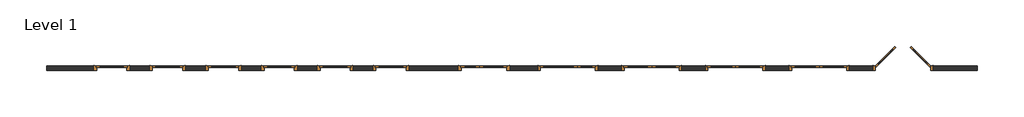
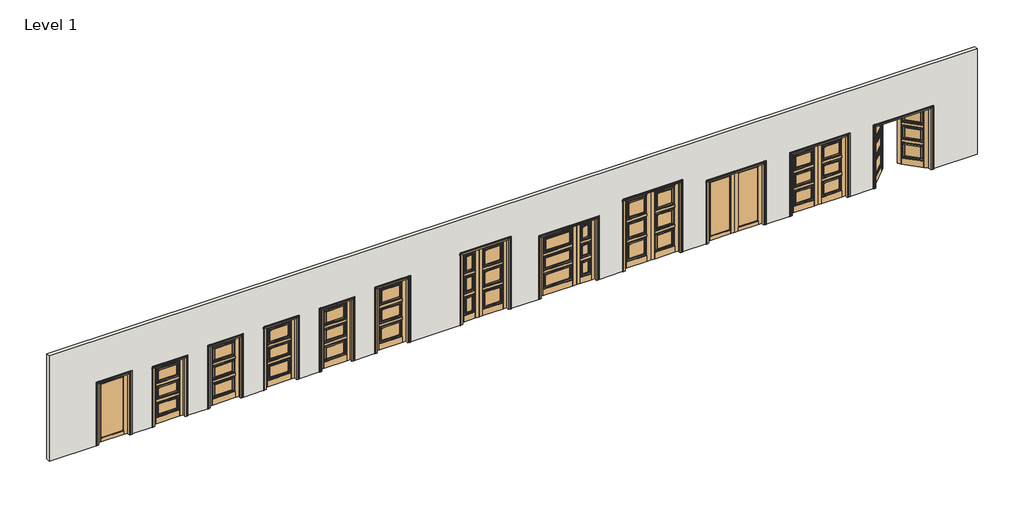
# One storey: 30 doors, 1 wall.
"""IFC4 building model written with IfcOpenShell, lengths in millimetres."""

from ifc_helpers import new_model, si_unit, frame, origin, place, context, project, spatial, polyline, outline, extrude, transform, mapped, element, save
from components import fl100_fl100_ab5ff895, fl100_fl100_03ccafaa, fl100_fl100_24e7efae, frame_100_frame_100_33f8a8ae, frame_100_frame_100_04226f92, frame_100_frame_100_811dc82e, frame_100_frame_100_92fc3688, frame_100_frame_100_0b87e9ed, frame_100_frame_100_8937c7fa, ts3000_ts3000_933aa4a2, ts3000_ts3000_b3d2ea40, ts3000_ts3000_06066854, ts3000_ts3000_854737be, ts3000_ts3000_38d59591, ts3000_ts3000_fbc00aaa, ts3000_ts3000_dfe12d88, ts3000_ts3000_1b48b864, ts3000_ts3000_a0dd6230, ts3000_ts3000_8495b2d9, ts3000_ts3000_f5337b0c, ts3000_ts3000_832c720e, ts3000_ts3000_b2f78607, ts3000_ts3000_fb004bbc, ts3000_ts3000_b3cfcfa0, ts3000_ts3000_a5b986c2, ts3000_ts3000_820fce27, ts3000_ts3000_e38f3df4, ts3000_ts3000_722c0499, ts3000_ts3000_e69fdbf4

model = new_model("IFC4")

# Units and contexts
model_context = context("Model", 3, world=origin())
ifc_project = project(units=[si_unit("LENGTHUNIT", "METRE", prefix="MILLI")], contexts=[model_context])

# Site, building, storey
site = spatial("IfcSite", under=ifc_project)
building = spatial("IfcBuilding", under=site)
storey = spatial("IfcBuildingStorey", under=building, Name="Level 1", Elevation=0.0)

# Doors
placement = place(None, origin())
fl100_fl100_shape = fl100_fl100_ab5ff895(model_context)
element("IfcDoor", 1, ObjectType="FL100 : FL100", at=placement, inside=storey, context=model_context, shape_type="MappedRepresentation", body=[
    mapped(fl100_fl100_shape, transform((-15488.6192752, 1797.466931, 0.0), x_axis=(1.0, 0.0, 0.0), y_axis=(0.0, 1.0, 0.0), z_axis=(0.0, 0.0, 1.0))),
])
fl100_fl100_2_shape = fl100_fl100_03ccafaa(model_context)
element("IfcDoor", 2, ObjectType="FL100 : FL100", at=placement, inside=storey, context=model_context, shape_type="MappedRepresentation", body=[
    mapped(fl100_fl100_2_shape, transform((4526.5807248, 1797.466931, 0.0), x_axis=(1.0, 0.0, 0.0), y_axis=(0.0, 1.0, 0.0), z_axis=(0.0, 0.0, 1.0))),
])
fl100_fl100_3_shape = fl100_fl100_24e7efae(model_context)
element("IfcDoor", 3, ObjectType="FL100 : FL100", at=placement, inside=storey, context=model_context, shape_type="MappedRepresentation", body=[
    mapped(fl100_fl100_3_shape, transform((6355.3807248, 1797.466931, 0.0), x_axis=(-1.0, 0.0, 0.0), y_axis=(0.0, -1.0, 0.0), z_axis=(0.0, 0.0, 1.0))),
])
frame_100_frame_100_shape = frame_100_frame_100_33f8a8ae(model_context)
element("IfcDoor", 4, ObjectType="Frame-100 : Frame-100", at=placement, inside=storey, context=model_context, shape_type="MappedRepresentation", body=[
    mapped(frame_100_frame_100_shape, transform((-14980.6192752, 1727.616931, 0.0), x_axis=(1.0, 0.0, 0.0), y_axis=(0.0, 1.0, 0.0), z_axis=(0.0, 0.0, 1.0))),
])
element("IfcDoor", 5, ObjectType="Frame-100 : Frame-100", at=placement, inside=storey, context=model_context, shape_type="MappedRepresentation", body=[
    mapped(frame_100_frame_100_shape, transform((-11323.0192752, 1727.616931, 0.0), x_axis=(1.0, 0.0, 0.0), y_axis=(0.0, 1.0, 0.0), z_axis=(0.0, 0.0, 1.0))),
])
element("IfcDoor", 6, ObjectType="Frame-100 : Frame-100", at=placement, inside=storey, context=model_context, shape_type="MappedRepresentation", body=[
    mapped(frame_100_frame_100_shape, transform((-9494.2192752, 1727.616931, 0.0), x_axis=(1.0, 0.0, 0.0), y_axis=(0.0, 1.0, 0.0), z_axis=(0.0, 0.0, 1.0))),
])
element("IfcDoor", 7, ObjectType="Frame-100 : Frame-100", at=placement, inside=storey, context=model_context, shape_type="MappedRepresentation", body=[
    mapped(frame_100_frame_100_shape, transform((-7665.4192752, 1727.616931, 0.0), x_axis=(1.0, 0.0, 0.0), y_axis=(0.0, 1.0, 0.0), z_axis=(0.0, 0.0, 1.0))),
])
frame_100_frame_100_2_shape = frame_100_frame_100_04226f92(model_context)
element("IfcDoor", 8, ObjectType="Frame-100 : Frame-100", at=placement, inside=storey, context=model_context, shape_type="MappedRepresentation", body=[
    mapped(frame_100_frame_100_2_shape, transform((-13151.8192752, 1727.616931, 0.0), x_axis=(1.0, 0.0, 0.0), y_axis=(0.0, 1.0, 0.0), z_axis=(0.0, 0.0, 1.0))),
])
frame_100_frame_100_3_shape = frame_100_frame_100_811dc82e(model_context)
element("IfcDoor", 9, ObjectType="Frame-100 : Frame-100", at=placement, inside=storey, context=model_context, shape_type="MappedRepresentation", body=[
    mapped(frame_100_frame_100_3_shape, transform((-5836.6192752, 1727.616931, 0.0), x_axis=(1.0, 0.0, 0.0), y_axis=(0.0, 1.0, 0.0), z_axis=(0.0, 0.0, 1.0))),
])
frame_100_frame_100_4_shape = frame_100_frame_100_92fc3688(model_context)
element("IfcDoor", 10, ObjectType="Frame-100 : Frame-100", at=placement, inside=storey, context=model_context, shape_type="MappedRepresentation", body=[
    mapped(frame_100_frame_100_4_shape, transform((-2788.6192752, 1727.616931, 0.0), x_axis=(-1.0, 0.0, 0.0), y_axis=(0.0, -1.0, 0.0), z_axis=(0.0, 0.0, 1.0))),
])
frame_100_frame_100_5_shape = frame_100_frame_100_0b87e9ed(model_context)
element("IfcDoor", 11, ObjectType="Frame-100 : Frame-100", at=placement, inside=storey, context=model_context, shape_type="MappedRepresentation", body=[
    mapped(frame_100_frame_100_5_shape, transform((-45.4192752, 1727.616931, 0.0), x_axis=(1.0, 0.0, 0.0), y_axis=(0.0, 1.0, 0.0), z_axis=(0.0, 0.0, 1.0))),
])
element("IfcDoor", 12, ObjectType="Frame-100 : Frame-100", at=placement, inside=storey, context=model_context, shape_type="MappedRepresentation", body=[
    mapped(frame_100_frame_100_5_shape, transform((5440.9807248, 1727.616931, 0.0), x_axis=(1.0, 0.0, 0.0), y_axis=(0.0, 1.0, 0.0), z_axis=(0.0, 0.0, 1.0))),
])
element("IfcDoor", 13, ObjectType="Frame-100 : Frame-100", at=placement, inside=storey, context=model_context, shape_type="MappedRepresentation", body=[
    mapped(frame_100_frame_100_5_shape, transform((8184.1807248, 1727.616931, 0.0), x_axis=(1.0, 0.0, 0.0), y_axis=(0.0, 1.0, 0.0), z_axis=(0.0, 0.0, 1.0))),
])
element("IfcDoor", 14, ObjectType="Frame-100 : Frame-100", at=placement, inside=storey, context=model_context, shape_type="MappedRepresentation", body=[
    mapped(frame_100_frame_100_5_shape, transform((10927.3807248, 1727.616931, 0.0), x_axis=(1.0, 0.0, 0.0), y_axis=(0.0, 1.0, 0.0), z_axis=(0.0, 0.0, 1.0))),
])
frame_100_frame_100_6_shape = frame_100_frame_100_8937c7fa(model_context)
element("IfcDoor", 15, ObjectType="Frame-100 : Frame-100", at=placement, inside=storey, context=model_context, shape_type="MappedRepresentation", body=[
    mapped(frame_100_frame_100_6_shape, transform((2697.7807248, 1727.616931, 0.0), x_axis=(1.0, 0.0, 0.0), y_axis=(0.0, 1.0, 0.0), z_axis=(0.0, 0.0, 1.0))),
])
ts3000_ts3000_shape = ts3000_ts3000_933aa4a2(model_context)
ts3000_ts3000_2_shape = ts3000_ts3000_b3d2ea40(model_context)
element("IfcDoor", 16, ObjectType="TS3000 : TS3000", at=placement, inside=storey, context=model_context, shape_type="MappedRepresentation", body=[
    mapped(ts3000_ts3000_shape, transform((1783.3807248, 1797.466931, 0.0), x_axis=(1.0, 0.0, 0.0), y_axis=(0.0, 1.0, 0.0), z_axis=(0.0, 0.0, 1.0))),
    mapped(ts3000_ts3000_2_shape, transform((1783.3807248, 1797.466931, 0.0), x_axis=(1.0, 0.0, 0.0), y_axis=(0.0, 1.0, 0.0), z_axis=(0.0, 0.0, 1.0))),
])
ts3000_ts3000_3_shape = ts3000_ts3000_06066854(model_context)
ts3000_ts3000_4_shape = ts3000_ts3000_854737be(model_context)
element("IfcDoor", 17, ObjectType="TS3000 : TS3000", at=placement, inside=storey, context=model_context, shape_type="MappedRepresentation", body=[
    mapped(ts3000_ts3000_3_shape, transform((7269.7807248, 1797.466931, 0.0), x_axis=(1.0, 0.0, 0.0), y_axis=(0.0, 1.0, 0.0), z_axis=(0.0, 0.0, 1.0))),
    mapped(ts3000_ts3000_4_shape, transform((7269.7807248, 1797.466931, 0.0), x_axis=(1.0, 0.0, 0.0), y_axis=(0.0, 1.0, 0.0), z_axis=(0.0, 0.0, 1.0))),
])
element("IfcDoor", 18, ObjectType="TS3000 : TS3000", at=placement, inside=storey, context=model_context, shape_type="MappedRepresentation", body=[
    mapped(ts3000_ts3000_3_shape, transform((10012.9807248, 1797.466931, 0.0), x_axis=(0.7071067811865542, 0.7071067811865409, 0.0), y_axis=(-0.707106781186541, 0.7071067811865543, 0.0), z_axis=(0.0, 0.0, 1.0000000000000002))),
    mapped(ts3000_ts3000_4_shape, transform((10012.9807248, 1797.466931, 0.0), x_axis=(0.7071067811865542, 0.7071067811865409, 0.0), y_axis=(-0.707106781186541, 0.7071067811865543, 0.0), z_axis=(0.0, 0.0, 1.0000000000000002))),
])
ts3000_ts3000_5_shape = ts3000_ts3000_38d59591(model_context)
ts3000_ts3000_6_shape = ts3000_ts3000_fbc00aaa(model_context)
element("IfcDoor", 19, ObjectType="TS3000 : TS3000", at=placement, inside=storey, context=model_context, shape_type="MappedRepresentation", body=[
    mapped(ts3000_ts3000_5_shape, transform((-11831.0192752, 1797.466931, 0.0), x_axis=(1.0, 0.0, 0.0), y_axis=(0.0, 1.0, 0.0), z_axis=(0.0, 0.0, 1.0))),
    mapped(ts3000_ts3000_6_shape, transform((-11831.0192752, 1797.466931, 0.0), x_axis=(1.0, 0.0, 0.0), y_axis=(0.0, 1.0, 0.0), z_axis=(0.0, 0.0, 1.0))),
])
element("IfcDoor", 20, ObjectType="TS3000 : TS3000", at=placement, inside=storey, context=model_context, shape_type="MappedRepresentation", body=[
    mapped(ts3000_ts3000_5_shape, transform((-10002.2192752, 1797.466931, 0.0), x_axis=(1.0, 0.0, 0.0), y_axis=(0.0, 1.0, 0.0), z_axis=(0.0, 0.0, 1.0))),
    mapped(ts3000_ts3000_6_shape, transform((-10002.2192752, 1797.466931, 0.0), x_axis=(1.0, 0.0, 0.0), y_axis=(0.0, 1.0, 0.0), z_axis=(0.0, 0.0, 1.0))),
])
element("IfcDoor", 21, ObjectType="TS3000 : TS3000", at=placement, inside=storey, context=model_context, shape_type="MappedRepresentation", body=[
    mapped(ts3000_ts3000_5_shape, transform((-8173.4192752, 1797.466931, 0.0), x_axis=(1.0, 0.0, 0.0), y_axis=(0.0, 1.0, 0.0), z_axis=(0.0, 0.0, 1.0))),
    mapped(ts3000_ts3000_6_shape, transform((-8173.4192752, 1797.466931, 0.0), x_axis=(1.0, 0.0, 0.0), y_axis=(0.0, 1.0, 0.0), z_axis=(0.0, 0.0, 1.0))),
])
ts3000_ts3000_7_shape = ts3000_ts3000_dfe12d88(model_context)
ts3000_ts3000_8_shape = ts3000_ts3000_1b48b864(model_context)
element("IfcDoor", 22, ObjectType="TS3000 : TS3000", at=placement, inside=storey, context=model_context, shape_type="MappedRepresentation", body=[
    mapped(ts3000_ts3000_7_shape, transform((-13659.8192752, 1797.466931, 0.0), x_axis=(1.0, 0.0, 0.0), y_axis=(0.0, 1.0, 0.0), z_axis=(0.0, 0.0, 1.0))),
    mapped(ts3000_ts3000_8_shape, transform((-13659.8192752, 1797.466931, 0.0), x_axis=(1.0, 0.0, 0.0), y_axis=(0.0, 1.0, 0.0), z_axis=(0.0, 0.0, 1.0))),
])
ts3000_ts3000_9_shape = ts3000_ts3000_a0dd6230(model_context)
ts3000_ts3000_10_shape = ts3000_ts3000_8495b2d9(model_context)
element("IfcDoor", 23, ObjectType="TS3000 : TS3000", at=placement, inside=storey, context=model_context, shape_type="MappedRepresentation", body=[
    mapped(ts3000_ts3000_9_shape, transform((-6344.6192752, 1797.466931, 0.0), x_axis=(1.0, 0.0, 0.0), y_axis=(0.0, 1.0, 0.0), z_axis=(0.0, 0.0, 1.0))),
    mapped(ts3000_ts3000_10_shape, transform((-6344.6192752, 1797.466931, 0.0), x_axis=(1.0, 0.0, 0.0), y_axis=(0.0, 1.0, 0.0), z_axis=(0.0, 0.0, 1.0))),
])
ts3000_ts3000_11_shape = ts3000_ts3000_f5337b0c(model_context)
ts3000_ts3000_12_shape = ts3000_ts3000_832c720e(model_context)
element("IfcDoor", 24, ObjectType="TS3000 : TS3000", at=placement, inside=storey, context=model_context, shape_type="MappedRepresentation", body=[
    mapped(ts3000_ts3000_11_shape, transform((9098.5807248, 1797.466931, 0.0), x_axis=(-1.0, 0.0, 0.0), y_axis=(0.0, -1.0, 0.0), z_axis=(0.0, 0.0, 1.0))),
    mapped(ts3000_ts3000_12_shape, transform((9098.5807248, 1797.466931, 0.0), x_axis=(-1.0, 0.0, 0.0), y_axis=(0.0, -1.0, 0.0), z_axis=(0.0, 0.0, 1.0))),
])
element("IfcDoor", 25, ObjectType="TS3000 : TS3000", at=placement, inside=storey, context=model_context, shape_type="MappedRepresentation", body=[
    mapped(ts3000_ts3000_11_shape, transform((11841.7807248, 1797.466931, 0.0), x_axis=(-0.7071067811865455, 0.7071067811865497, 0.0), y_axis=(-0.7071067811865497, -0.7071067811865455, 0.0), z_axis=(0.0, 0.0, 1.0))),
    mapped(ts3000_ts3000_12_shape, transform((11841.7807248, 1797.466931, 0.0), x_axis=(-0.7071067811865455, 0.7071067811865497, 0.0), y_axis=(-0.7071067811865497, -0.7071067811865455, 0.0), z_axis=(0.0, 0.0, 1.0))),
])
ts3000_ts3000_13_shape = ts3000_ts3000_b2f78607(model_context)
ts3000_ts3000_14_shape = ts3000_ts3000_fb004bbc(model_context)
element("IfcDoor", 26, ObjectType="TS3000 : TS3000", at=placement, inside=storey, context=model_context, shape_type="MappedRepresentation", body=[
    mapped(ts3000_ts3000_13_shape, transform((-2026.6192752, 1797.466931, 0.0), x_axis=(-1.0, 0.0, 0.0), y_axis=(0.0, -1.0, 0.0), z_axis=(0.0, 0.0, 1.0))),
    mapped(ts3000_ts3000_14_shape, transform((-2026.6192752, 1797.466931, 0.0), x_axis=(-1.0, 0.0, 0.0), y_axis=(0.0, -1.0, 0.0), z_axis=(0.0, 0.0, 1.0))),
])
element("IfcDoor", 27, ObjectType="TS3000 : TS3000", at=placement, inside=storey, context=model_context, shape_type="MappedRepresentation", body=[
    mapped(ts3000_ts3000_13_shape, transform((3612.1807248, 1797.466931, 0.0), x_axis=(-1.0, 0.0, 0.0), y_axis=(0.0, -1.0, 0.0), z_axis=(0.0, 0.0, 1.0))),
    mapped(ts3000_ts3000_14_shape, transform((3612.1807248, 1797.466931, 0.0), x_axis=(-1.0, 0.0, 0.0), y_axis=(0.0, -1.0, 0.0), z_axis=(0.0, 0.0, 1.0))),
])
ts3000_ts3000_15_shape = ts3000_ts3000_b3cfcfa0(model_context)
ts3000_ts3000_16_shape = ts3000_ts3000_a5b986c2(model_context)
element("IfcDoor", 28, ObjectType="TS3000 : TS3000", at=placement, inside=storey, context=model_context, shape_type="MappedRepresentation", body=[
    mapped(ts3000_ts3000_15_shape, transform((-3550.6192752, 1797.466931, 0.0), x_axis=(1.0, 0.0, 0.0), y_axis=(0.0, 1.0, 0.0), z_axis=(0.0, 0.0, 1.0))),
    mapped(ts3000_ts3000_16_shape, transform((-3550.6192752, 1797.466931, 0.0), x_axis=(1.0, 0.0, 0.0), y_axis=(0.0, 1.0, 0.0), z_axis=(0.0, 0.0, 1.0))),
])
ts3000_ts3000_17_shape = ts3000_ts3000_820fce27(model_context)
ts3000_ts3000_18_shape = ts3000_ts3000_e38f3df4(model_context)
element("IfcDoor", 29, ObjectType="TS3000 : TS3000", at=placement, inside=storey, context=model_context, shape_type="MappedRepresentation", body=[
    mapped(ts3000_ts3000_17_shape, transform((-959.8192752, 1797.466931, 0.0), x_axis=(1.0, 0.0, 0.0), y_axis=(0.0, 1.0, 0.0), z_axis=(0.0, 0.0, 1.0))),
    mapped(ts3000_ts3000_18_shape, transform((-959.8192752, 1797.466931, 0.0), x_axis=(1.0, 0.0, 0.0), y_axis=(0.0, 1.0, 0.0), z_axis=(0.0, 0.0, 1.0))),
])
ts3000_ts3000_19_shape = ts3000_ts3000_722c0499(model_context)
ts3000_ts3000_20_shape = ts3000_ts3000_e69fdbf4(model_context)
element("IfcDoor", 30, ObjectType="TS3000 : TS3000", at=placement, inside=storey, context=model_context, shape_type="MappedRepresentation", body=[
    mapped(ts3000_ts3000_19_shape, transform((868.9807248, 1797.466931, 0.0), x_axis=(-1.0, 0.0, 0.0), y_axis=(0.0, -1.0, 0.0), z_axis=(0.0, 0.0, 1.0))),
    mapped(ts3000_ts3000_20_shape, transform((868.9807248, 1797.466931, 0.0), x_axis=(-1.0, 0.0, 0.0), y_axis=(0.0, -1.0, 0.0), z_axis=(0.0, 0.0, 1.0))),
])

# Wall
element("IfcWall", 31, ObjectType="Interior - 5 1/2\" Partition (1-hr)", at=placement, inside=storey, context=model_context, shape_type="SweptSolid", body=[
    extrude(outline(polyline([(2209.8, 11917.9807248), (0.0, 11917.9807248), (0.0, 13365.7807248), (3657.6, 13365.7807248), (3657.6, -17114.2192752), (0.0, -17114.2192752), (0.0, -15564.8192752), (2209.8, -15564.8192752), (2209.8, -14396.4192752), (0.0, -14396.4192752), (0.0, -13736.0192752), (2108.2, -13736.0192752), (2108.2, -12567.6192752), (0.0, -12567.6192752), (0.0, -11907.2192752), (2209.8, -11907.2192752), (2209.8, -10738.8192752), (0.0, -10738.8192752), (0.0, -10078.4192752), (2209.8, -10078.4192752), (2209.8, -8910.0192752), (0.0, -8910.0192752), (0.0, -8249.6192752), (2209.8, -8249.6192752), (2209.8, -7081.2192752), (0.0, -7081.2192752), (0.0, -6420.8192752), (2311.4, -6420.8192752), (2311.4, -5252.4192752), (0.0, -5252.4192752), (0.0, -3626.8192752), (2514.6, -3626.8192752), (2514.6, -1950.4192752), (0.0, -1950.4192752), (0.0, -1036.0192752), (2209.8, -1036.0192752), (2209.8, 945.1807248), (0.0, 945.1807248), (0.0, 1707.1807248), (2514.6, 1707.1807248), (2514.6, 3688.3807248), (0.0, 3688.3807248), (0.0, 4450.3807248), (2209.8, 4450.3807248), (2209.8, 6431.5807248), (0.0, 6431.5807248), (0.0, 7193.5807248), (2209.8, 7193.5807248), (2209.8, 9174.7807248), (0.0, 9174.7807248), (0.0, 9936.7807248), (2209.8, 9936.7807248), (2209.8, 11917.9807248)])), frame((0.0, 1657.766931, 0.0), z_axis=(0.0, 1.0, 0.0), x_axis=(0.0, 0.0, 1.0)), (0.0, 0.0, 1.0), 139.7),
])

save(model, "model.ifc")
